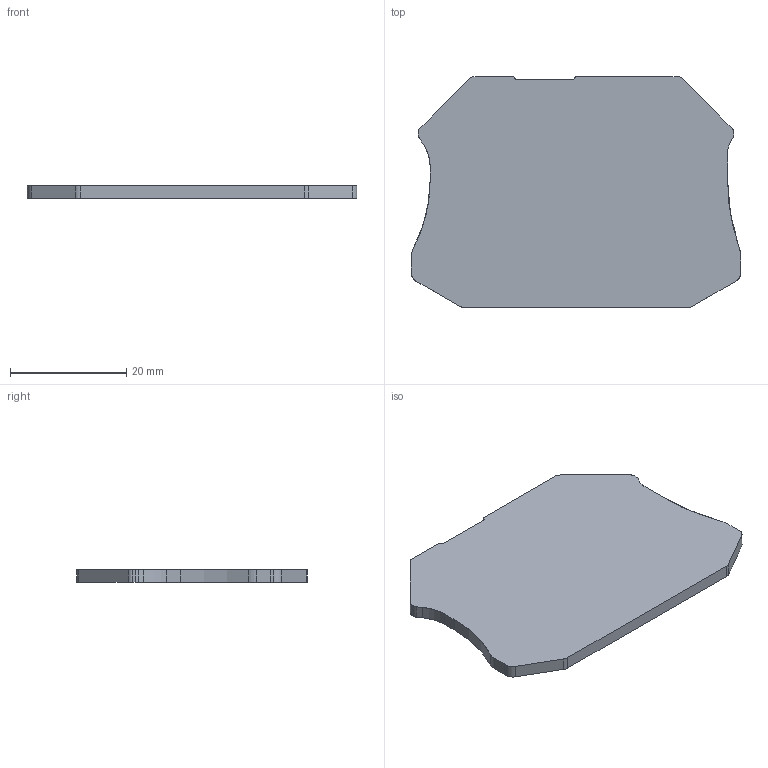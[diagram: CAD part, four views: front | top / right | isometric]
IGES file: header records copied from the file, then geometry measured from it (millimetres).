
Global section: file name: 3047141_d_ut25_4_twin_select.1.igs; native system: OneSpace Designer 3D IGES; preprocessor: 12.01C  26-Mar-2004; date: 20041021.133244; units: millimetre
Bounding box: 56.8 x 39.8 x 2.2 mm (x, y, z)
Surface area: 4429.4 mm2 (no closed solid volume)
Topology: 0 solids, 0 shells, 39 faces, 282 edges, 282 vertices
Faces by surface type: bspline 39
